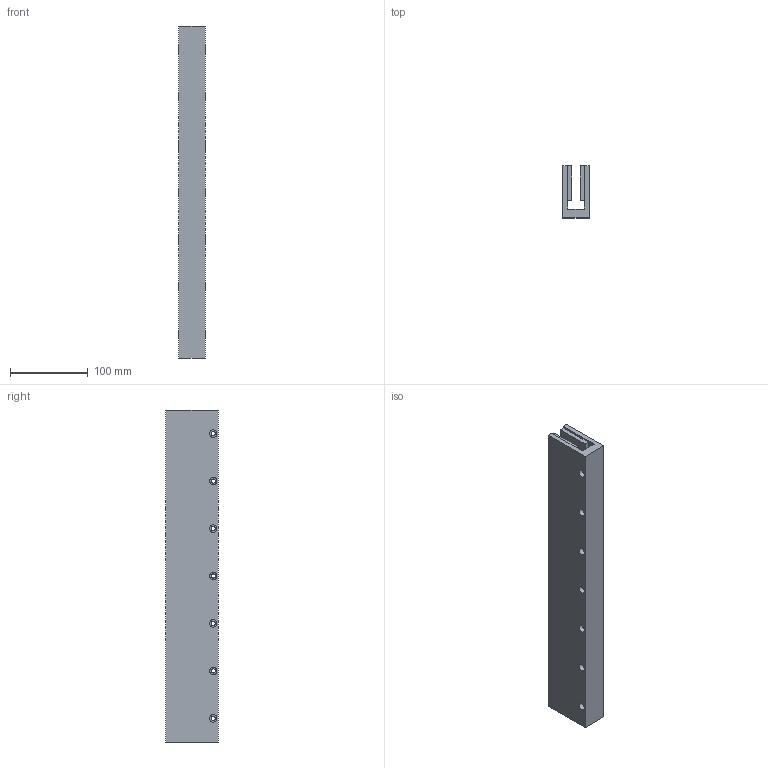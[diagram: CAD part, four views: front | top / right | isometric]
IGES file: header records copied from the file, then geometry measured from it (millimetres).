
Global section: file name: No Iges File Name specified; native system: Autodesk Inventor 2012; preprocessor: AutoDesk Inventor Iges Exporter R2012; author: je17857; date: 20120511.155633; units: inch
Bounding box: 34.29 x 67.31 x 426.47 mm (x, y, z)
Volume: 634234.2 mm3; surface area: 162990 mm2
Topology: 1 solids, 1 shells, 185 faces, 423 edges, 282 vertices
Faces by surface type: plane 164, revolution 21
